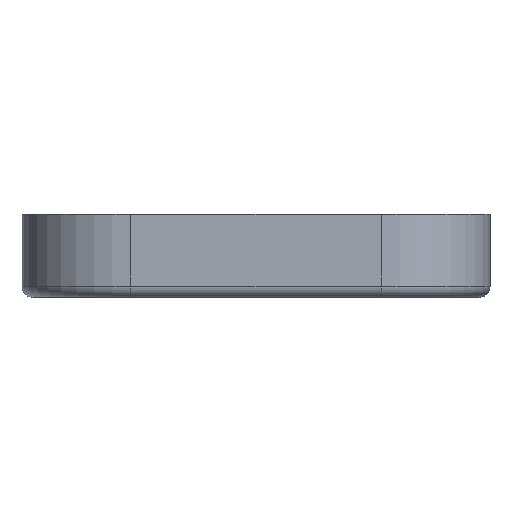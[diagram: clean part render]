
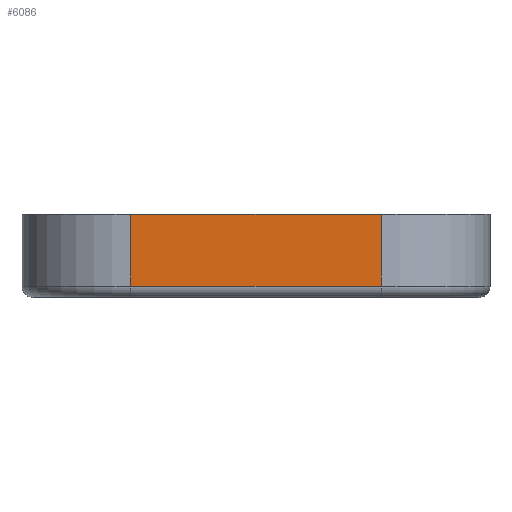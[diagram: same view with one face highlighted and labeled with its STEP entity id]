
A CAD part, top view. The second image highlights one B-rep face of the part: STEP entity #6086.
In plain terms, the highlighted planar face has unit normal (0, 0, 1).
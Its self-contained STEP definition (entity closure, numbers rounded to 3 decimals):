
#138 = CYLINDRICAL_SURFACE('',#139,3.);
#139 = AXIS2_PLACEMENT_3D('',#140,#141,#142);
#140 = CARTESIAN_POINT('',(34.,-50.,259.5));
#141 = DIRECTION('',(-1.,-0.,-0.));
#142 = DIRECTION('',(-0.,0.,1.));
#3518 = PLANE('',#3519);
#3519 = AXIS2_PLACEMENT_3D('',#3520,#3521,#3522);
#3520 = CARTESIAN_POINT('',(0.,-30.5,217.));
#3521 = DIRECTION('',(0.,1.,0.));
#3522 = DIRECTION('',(1.,0.,0.));
#3584 = VERTEX_POINT('',#3585);
#3585 = CARTESIAN_POINT('',(-34.,-30.5,262.5));
#3600 = CYLINDRICAL_SURFACE('',#3601,29.5);
#3601 = AXIS2_PLACEMENT_3D('',#3602,#3603,#3604);
#3602 = CARTESIAN_POINT('',(-34.,-53.,233.));
#3603 = DIRECTION('',(0.,-1.,-0.));
#3604 = DIRECTION('',(1.,0.,0.));
#3612 = EDGE_CURVE('',#3584,#3613,#3615,.T.);
#3613 = VERTEX_POINT('',#3614);
#3614 = CARTESIAN_POINT('',(34.,-30.5,262.5));
#3615 = SURFACE_CURVE('',#3616,(#3620,#3627),.PCURVE_S1.);
#3616 = LINE('',#3617,#3618);
#3617 = CARTESIAN_POINT('',(0.,-30.5,262.5));
#3618 = VECTOR('',#3619,1.);
#3619 = DIRECTION('',(1.,0.,0.));
#3620 = PCURVE('',#3518,#3621);
#3621 = DEFINITIONAL_REPRESENTATION('',(#3622),#3626);
#3622 = LINE('',#3623,#3624);
#3623 = CARTESIAN_POINT('',(0.,-45.5));
#3624 = VECTOR('',#3625,1.);
#3625 = DIRECTION('',(1.,0.));
#3626 = ( GEOMETRIC_REPRESENTATION_CONTEXT(2) 
PARAMETRIC_REPRESENTATION_CONTEXT() REPRESENTATION_CONTEXT('2D SPACE',''
  ) );
#3627 = PCURVE('',#3628,#3633);
#3628 = PLANE('',#3629);
#3629 = AXIS2_PLACEMENT_3D('',#3630,#3631,#3632);
#3630 = CARTESIAN_POINT('',(-34.,-53.,262.5));
#3631 = DIRECTION('',(0.,0.,-1.));
#3632 = DIRECTION('',(1.,0.,0.));
#3633 = DEFINITIONAL_REPRESENTATION('',(#3634),#3638);
#3634 = LINE('',#3635,#3636);
#3635 = CARTESIAN_POINT('',(34.,-22.5));
#3636 = VECTOR('',#3637,1.);
#3637 = DIRECTION('',(1.,0.));
#3638 = ( GEOMETRIC_REPRESENTATION_CONTEXT(2) 
PARAMETRIC_REPRESENTATION_CONTEXT() REPRESENTATION_CONTEXT('2D SPACE',''
  ) );
#3657 = CYLINDRICAL_SURFACE('',#3658,29.5);
#3658 = AXIS2_PLACEMENT_3D('',#3659,#3660,#3661);
#3659 = CARTESIAN_POINT('',(34.,-53.,233.));
#3660 = DIRECTION('',(0.,-1.,-0.));
#3661 = DIRECTION('',(1.,0.,0.));
#4081 = EDGE_CURVE('',#4082,#3613,#4084,.T.);
#4082 = VERTEX_POINT('',#4083);
#4083 = CARTESIAN_POINT('',(34.,-50.,262.5));
#4084 = SURFACE_CURVE('',#4085,(#4089,#4096),.PCURVE_S1.);
#4085 = LINE('',#4086,#4087);
#4086 = CARTESIAN_POINT('',(34.,-53.,262.5));
#4087 = VECTOR('',#4088,1.);
#4088 = DIRECTION('',(-0.,1.,0.));
#4089 = PCURVE('',#3657,#4090);
#4090 = DEFINITIONAL_REPRESENTATION('',(#4091),#4095);
#4091 = LINE('',#4092,#4093);
#4092 = CARTESIAN_POINT('',(-4.712,0.));
#4093 = VECTOR('',#4094,1.);
#4094 = DIRECTION('',(-0.,-1.));
#4095 = ( GEOMETRIC_REPRESENTATION_CONTEXT(2) 
PARAMETRIC_REPRESENTATION_CONTEXT() REPRESENTATION_CONTEXT('2D SPACE',''
  ) );
#4096 = PCURVE('',#3628,#4097);
#4097 = DEFINITIONAL_REPRESENTATION('',(#4098),#4102);
#4098 = LINE('',#4099,#4100);
#4099 = CARTESIAN_POINT('',(68.,0.));
#4100 = VECTOR('',#4101,1.);
#4101 = DIRECTION('',(0.,-1.));
#4102 = ( GEOMETRIC_REPRESENTATION_CONTEXT(2) 
PARAMETRIC_REPRESENTATION_CONTEXT() REPRESENTATION_CONTEXT('2D SPACE',''
  ) );
#6086 = ADVANCED_FACE('',(#6087),#3628,.F.);
#6087 = FACE_BOUND('',#6088,.F.);
#6088 = EDGE_LOOP('',(#6089,#6112,#6113,#6114));
#6089 = ORIENTED_EDGE('',*,*,#6090,.T.);
#6090 = EDGE_CURVE('',#6091,#3584,#6093,.T.);
#6091 = VERTEX_POINT('',#6092);
#6092 = CARTESIAN_POINT('',(-34.,-50.,262.5));
#6093 = SURFACE_CURVE('',#6094,(#6098,#6105),.PCURVE_S1.);
#6094 = LINE('',#6095,#6096);
#6095 = CARTESIAN_POINT('',(-34.,-53.,262.5));
#6096 = VECTOR('',#6097,1.);
#6097 = DIRECTION('',(-0.,1.,0.));
#6098 = PCURVE('',#3628,#6099);
#6099 = DEFINITIONAL_REPRESENTATION('',(#6100),#6104);
#6100 = LINE('',#6101,#6102);
#6101 = CARTESIAN_POINT('',(0.,0.));
#6102 = VECTOR('',#6103,1.);
#6103 = DIRECTION('',(0.,-1.));
#6104 = ( GEOMETRIC_REPRESENTATION_CONTEXT(2) 
PARAMETRIC_REPRESENTATION_CONTEXT() REPRESENTATION_CONTEXT('2D SPACE',''
  ) );
#6105 = PCURVE('',#3600,#6106);
#6106 = DEFINITIONAL_REPRESENTATION('',(#6107),#6111);
#6107 = LINE('',#6108,#6109);
#6108 = CARTESIAN_POINT('',(-4.712,0.));
#6109 = VECTOR('',#6110,1.);
#6110 = DIRECTION('',(-0.,-1.));
#6111 = ( GEOMETRIC_REPRESENTATION_CONTEXT(2) 
PARAMETRIC_REPRESENTATION_CONTEXT() REPRESENTATION_CONTEXT('2D SPACE',''
  ) );
#6112 = ORIENTED_EDGE('',*,*,#3612,.T.);
#6113 = ORIENTED_EDGE('',*,*,#4081,.F.);
#6114 = ORIENTED_EDGE('',*,*,#6115,.T.);
#6115 = EDGE_CURVE('',#4082,#6091,#6116,.T.);
#6116 = SURFACE_CURVE('',#6117,(#6121,#6128),.PCURVE_S1.);
#6117 = LINE('',#6118,#6119);
#6118 = CARTESIAN_POINT('',(34.,-50.,262.5));
#6119 = VECTOR('',#6120,1.);
#6120 = DIRECTION('',(-1.,-0.,-0.));
#6121 = PCURVE('',#3628,#6122);
#6122 = DEFINITIONAL_REPRESENTATION('',(#6123),#6127);
#6123 = LINE('',#6124,#6125);
#6124 = CARTESIAN_POINT('',(68.,-3.));
#6125 = VECTOR('',#6126,1.);
#6126 = DIRECTION('',(-1.,0.));
#6127 = ( GEOMETRIC_REPRESENTATION_CONTEXT(2) 
PARAMETRIC_REPRESENTATION_CONTEXT() REPRESENTATION_CONTEXT('2D SPACE',''
  ) );
#6128 = PCURVE('',#138,#6129);
#6129 = DEFINITIONAL_REPRESENTATION('',(#6130),#6134);
#6130 = LINE('',#6131,#6132);
#6131 = CARTESIAN_POINT('',(-0.,0.));
#6132 = VECTOR('',#6133,1.);
#6133 = DIRECTION('',(-0.,1.));
#6134 = ( GEOMETRIC_REPRESENTATION_CONTEXT(2) 
PARAMETRIC_REPRESENTATION_CONTEXT() REPRESENTATION_CONTEXT('2D SPACE',''
  ) );
